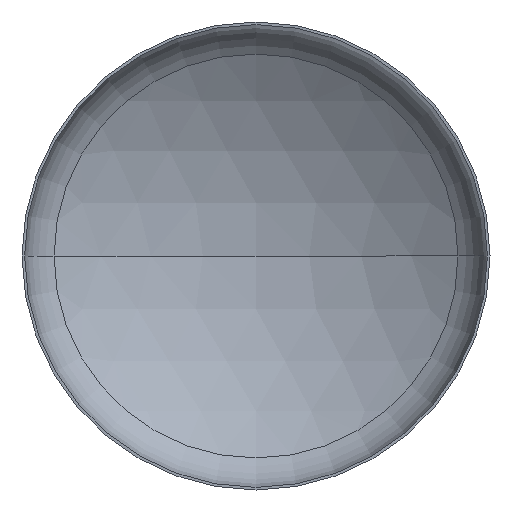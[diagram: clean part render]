
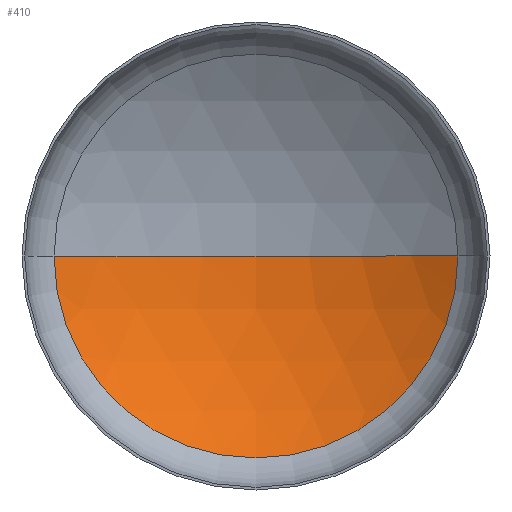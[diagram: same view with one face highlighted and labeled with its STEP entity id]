
A CAD part, front view. The second image highlights one B-rep face of the part: STEP entity #410.
In plain terms, the highlighted spherical face has radius 560.96 mm.
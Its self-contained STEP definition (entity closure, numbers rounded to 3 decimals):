
#16 = EDGE_CURVE ( 'NONE', #319, #270, #19, .T. ) ;
#18 = EDGE_CURVE ( 'NONE', #270, #277, #262, .T. ) ;
#19 = CIRCLE ( 'NONE', #308, 306.909 ) ;
#40 = CARTESIAN_POINT ( 'NONE',  ( 0., 84.596, 0. ) ) ;
#105 = ORIENTED_EDGE ( 'NONE', *, *, #16, .F. ) ;
#106 = DIRECTION ( 'NONE',  ( -1., 0., 0. ) ) ;
#121 = AXIS2_PLACEMENT_3D ( 'NONE', #241, #362, #371 ) ;
#124 = ORIENTED_EDGE ( 'NONE', *, *, #18, .F. ) ;
#134 = CIRCLE ( 'NONE', #182, 560.96 ) ;
#143 = EDGE_LOOP ( 'NONE', ( #105, #240, #124 ) ) ;
#166 = SPHERICAL_SURFACE ( 'NONE', #294, 560.96 ) ;
#182 = AXIS2_PLACEMENT_3D ( 'NONE', #235, #295, #327 ) ;
#191 = CARTESIAN_POINT ( 'NONE',  ( -306.909, 84.596, 0. ) ) ;
#199 = FACE_OUTER_BOUND ( 'NONE', #143, .T. ) ;
#234 = DIRECTION ( 'NONE',  ( -1., 0., 0. ) ) ;
#235 = CARTESIAN_POINT ( 'NONE',  ( 0., -384.96, 0. ) ) ;
#240 = ORIENTED_EDGE ( 'NONE', *, *, #399, .T. ) ;
#241 = CARTESIAN_POINT ( 'NONE',  ( 0., -384.96, 0. ) ) ;
#262 = CIRCLE ( 'NONE', #121, 560.96 ) ;
#270 = VERTEX_POINT ( 'NONE', #191 ) ;
#277 = VERTEX_POINT ( 'NONE', #318 ) ;
#294 = AXIS2_PLACEMENT_3D ( 'NONE', #298, #301, #234 ) ;
#295 = DIRECTION ( 'NONE',  ( 0., 0., 1. ) ) ;
#298 = CARTESIAN_POINT ( 'NONE',  ( 0., -384.96, 0. ) ) ;
#301 = DIRECTION ( 'NONE',  ( 0., 0., 1. ) ) ;
#308 = AXIS2_PLACEMENT_3D ( 'NONE', #40, #387, #106 ) ;
#318 = CARTESIAN_POINT ( 'NONE',  ( 0., 176., 0. ) ) ;
#319 = VERTEX_POINT ( 'NONE', #405 ) ;
#327 = DIRECTION ( 'NONE',  ( 1., 0., 0. ) ) ;
#362 = DIRECTION ( 'NONE',  ( 0., 0., -1. ) ) ;
#371 = DIRECTION ( 'NONE',  ( -1., 0., 0. ) ) ;
#387 = DIRECTION ( 'NONE',  ( 0., 1., 0. ) ) ;
#399 = EDGE_CURVE ( 'NONE', #319, #277, #134, .T. ) ;
#405 = CARTESIAN_POINT ( 'NONE',  ( 306.909, 84.596, 0. ) ) ;
#410 = ADVANCED_FACE ( 'NONE', ( #199 ), #166, .F. ) ;
